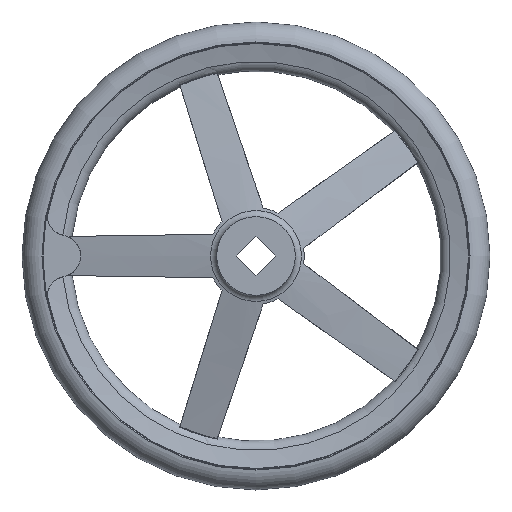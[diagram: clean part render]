
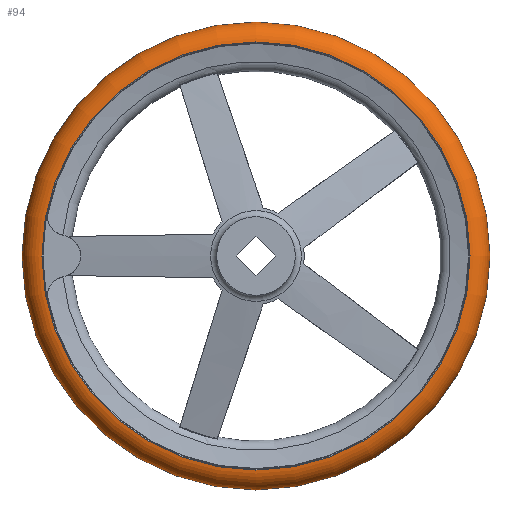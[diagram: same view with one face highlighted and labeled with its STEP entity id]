
A CAD part, left-side view. The second image highlights one B-rep face of the part: STEP entity #94.
In plain terms, the highlighted toroidal (fillet/blend) face has major radius 143.487 mm and minor radius 14.013 mm.
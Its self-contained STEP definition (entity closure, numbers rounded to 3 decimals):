
#94 = ADVANCED_FACE( '', ( #189, #190, #191 ), #192, .T. );
#189 = FACE_BOUND( '', #342, .T. );
#190 = FACE_OUTER_BOUND( '', #343, .T. );
#191 = FACE_OUTER_BOUND( '', #344, .T. );
#192 = TOROIDAL_SURFACE( '', #345, 143.487, 14.013 );
#342 = VERTEX_LOOP( '', #674 );
#343 = EDGE_LOOP( '', ( #675 ) );
#344 = EDGE_LOOP( '', ( #676 ) );
#345 = AXIS2_PLACEMENT_3D( '', #677, #678, #679 );
#674 = VERTEX_POINT( '', #1103 );
#675 = ORIENTED_EDGE( '', *, *, #1104, .T. );
#676 = ORIENTED_EDGE( '', *, *, #1100, .F. );
#677 = CARTESIAN_POINT( '', ( 42., 0., 0. ) );
#678 = DIRECTION( '', ( 1., 0., 0. ) );
#679 = DIRECTION( '', ( 0., 1., 0. ) );
#1100 = EDGE_CURVE( '', #1354, #1354, #1355, .T. );
#1103 = CARTESIAN_POINT( '', ( 42., 157.5, 0. ) );
#1104 = EDGE_CURVE( '', #1359, #1359, #1360, .T. );
#1354 = VERTEX_POINT( '', #2171 );
#1355 = CIRCLE( '', #2172, 144.083 );
#1359 = VERTEX_POINT( '', #2176 );
#1360 = CIRCLE( '', #2177, 144.083 );
#2171 = CARTESIAN_POINT( '', ( 56., 144.083, 0. ) );
#2172 = AXIS2_PLACEMENT_3D( '', #2558, #2559, #2560 );
#2176 = CARTESIAN_POINT( '', ( 28., 144.083, 0. ) );
#2177 = AXIS2_PLACEMENT_3D( '', #2567, #2568, #2569 );
#2558 = CARTESIAN_POINT( '', ( 56., 0., 0. ) );
#2559 = DIRECTION( '', ( 1., 0., 0. ) );
#2560 = DIRECTION( '', ( 0., 1., 0. ) );
#2567 = CARTESIAN_POINT( '', ( 28., 0., 0. ) );
#2568 = DIRECTION( '', ( 1., 0., 0. ) );
#2569 = DIRECTION( '', ( 0., 1., 0. ) );
